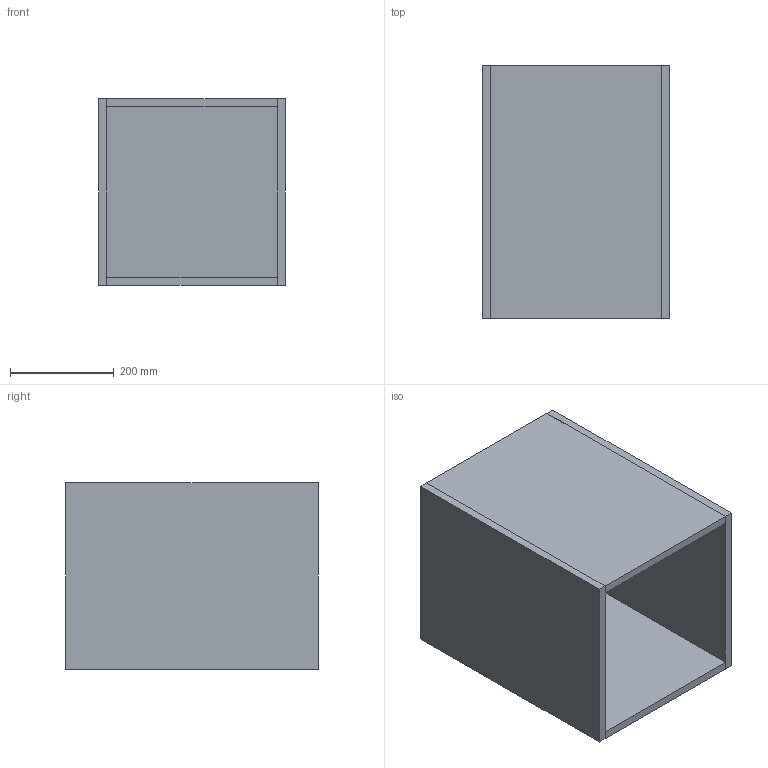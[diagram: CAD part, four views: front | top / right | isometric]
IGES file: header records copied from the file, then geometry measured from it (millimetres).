
Start section: Data from Parasolid IGES Translator 19.0.9, Copyright(c) 2006 Siemens PL M Software. All Rights Reserved.
Global section: file name: noorth-SI-H 36 D 51 W 36_8377.igs; native system: By Siemens PLM Incorporated; preprocessor: XPlus GENERIC/IGES 19.0.9; author: Noname; organization: Noname; date: 20200601.095736; units: metre
Bounding box: 360.01 x 486.06 x 360 mm (x, y, z)
Volume: 11007906.8 mm3; surface area: 1662685.4 mm2
Topology: 5 solids, 5 shells, 30 faces, 60 edges, 40 vertices
Faces by surface type: plane 30
